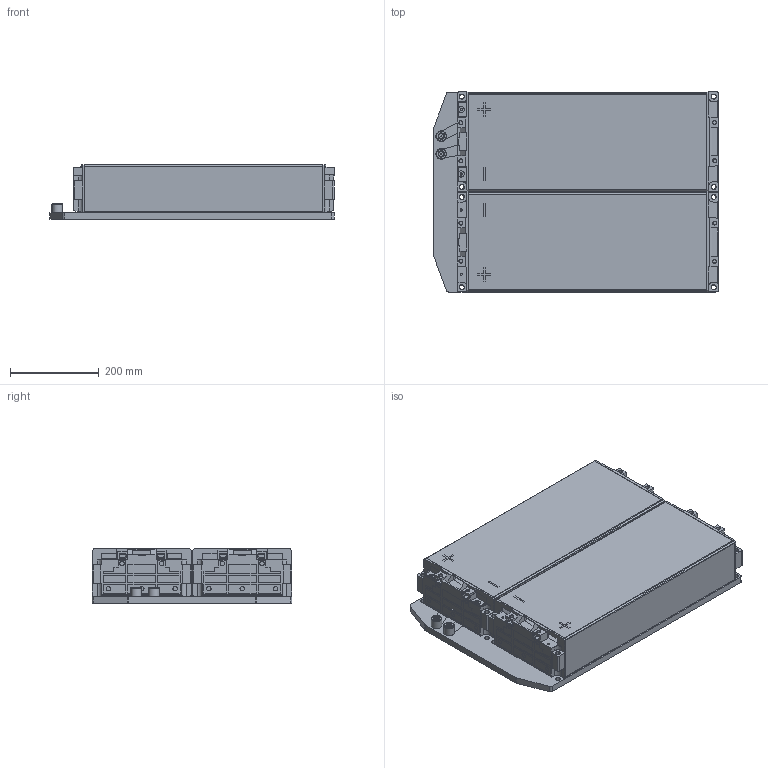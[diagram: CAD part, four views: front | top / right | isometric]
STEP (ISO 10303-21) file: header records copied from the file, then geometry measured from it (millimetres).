
FILE_DESCRIPTION(/* description */ (''),/* implementation_level */ '2;1');
FILE_NAME(/* name */ 'MEB设计水冷板改3.stp',/* time_stamp */ '2026-04-13T15:10:27+08:00',/* author */ (''),/* organization */ (''),/* preprocessor_version */ 'ST-DEVELOPER v16',/* originating_system */ 'SIEMENS PLM Software NX 10.0',/* authorisation */ '');
FILE_SCHEMA (('AUTOMOTIVE_DESIGN { 1 0 10303 214 3 1 1 1 }'));
Length unit declared in the file: millimetre
Products named in the file (1): admi8E1092D1es2r
Bounding box: 640 x 450 x 122.8 mm (x, y, z)
Volume: 7713852.4 mm3; surface area: 2551227.2 mm2
Topology: 6 solids, 6 shells, 1048 faces, 2794 edges, 1830 vertices
Faces by surface type: plane 680, cylinder 304, cone 58, bspline 4, torus 2
Full cylindrical faces by diameter (mm): 10.5 x8, 11.445 x18, 15 x2, 15.445 x2, 24 x2
Entity records: 34230 total; most frequent: CARTESIAN_POINT 8075, ORIENTED_EDGE 5396, DIRECTION 5360, EDGE_CURVE 2698, LINE 2018, VECTOR 2018, VERTEX_POINT 1782, AXIS2_PLACEMENT_3D 1671
